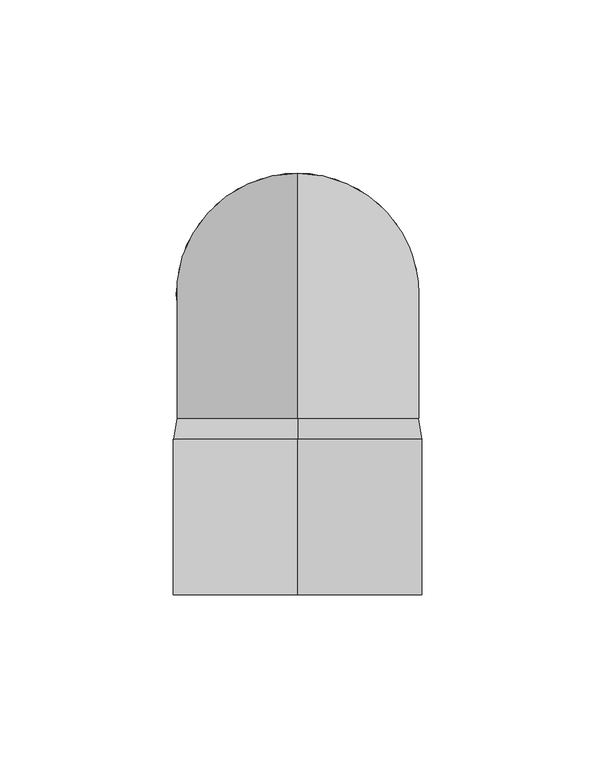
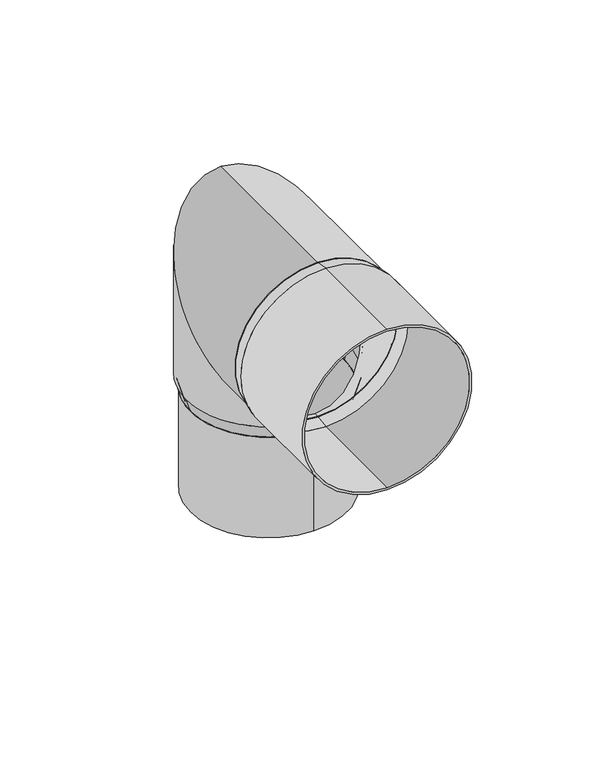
"""IFC4 building model written with IfcOpenShell, lengths in millimetres: proxy geometry, GROVIK_Downpipe_Knee : N70_90°_Up."""

import ifcopenshell
import ifcopenshell.guid

model = None  # the IFC model being written
_history = None  # IfcOwnerHistory: only IFC2X3 demands one
_inside = {}  # id of a spatial element -> (the spatial element, [elements in it])
_under = {}  # id of a project, library or spatial element -> (it, [spatial elements below it])
_declared = {}  # id of a project -> (the project, [libraries it declares])
_typed = {}  # id of a type object -> (the type object, [elements of that type])
_made_of = {}  # id of a material, layer set ... -> (it, [elements and type objects made of it])


def new_model(schema):
    """Start an empty IFC model of exactly this schema.

    Asked for "IFC4X3", IfcOpenShell would pick the latest addendum, in which some entities
    have other attributes; the version numbers below select the first issue.
    IFC2X3 requires an IfcOwnerHistory on every rooted entity: one is made here for all.
    """
    global model, _history
    if schema == "IFC4X3":
        model = ifcopenshell.file(schema_version=(4, 3, 0, 0))
    else:
        model = ifcopenshell.file(schema=schema)
    _inside.clear()
    _under.clear()
    _declared.clear()
    _typed.clear()
    _made_of.clear()
    _history = None
    if model.schema == "IFC2X3":
        org = make("IfcOrganization", Name="unknown")
        user = make(
            "IfcPersonAndOrganization",
            ThePerson=make("IfcPerson", FamilyName="unknown"),
            TheOrganization=org,
        )
        app = make(
            "IfcApplication",
            ApplicationDeveloper=org,
            Version="unknown",
            ApplicationFullName="unknown",
            ApplicationIdentifier="unknown",
        )
        _history = make(
            "IfcOwnerHistory",
            OwningUser=user,
            OwningApplication=app,
            ChangeAction="ADDED",
            CreationDate=0,
        )
    return model


def make(cls, **values):
    """One entity of the class cls with the attributes given. An attribute that is None is left unset."""
    return model.create_entity(
        cls, **{name: value for name, value in values.items() if value is not None}
    )


def rooted(cls, **values):
    """An entity with a GlobalId (a new one), such as an element, a storey or a relation."""
    return make(cls, GlobalId=ifcopenshell.guid.new(), OwnerHistory=_history, **values)


def si_unit(unit_type, name, prefix=None):
    """IfcSIUnit, for example si_unit("LENGTHUNIT", "METRE", prefix="MILLI")."""
    return make("IfcSIUnit", UnitType=unit_type, Prefix=prefix, Name=name)


def assignment(units):
    """IfcUnitAssignment: the units of a project."""
    return None if units is None else make("IfcUnitAssignment", Units=units)


def point(xyz):
    """IfcCartesianPoint."""
    return None if xyz is None else make("IfcCartesianPoint", Coordinates=xyz)


def direction(xyz):
    """IfcDirection."""
    return None if xyz is None else make("IfcDirection", DirectionRatios=xyz)


def frame(location, z_axis=None, x_axis=None):
    """IfcAxis2Placement3D, a coordinate frame: its origin and axes. An axis left out is left unset."""
    return make(
        "IfcAxis2Placement3D",
        Location=point(location),
        Axis=direction(z_axis),
        RefDirection=direction(x_axis),
    )


def frame_2d(location, x_axis=None):
    """IfcAxis2Placement2D, a coordinate frame in the plane: its origin and x axis."""
    return make(
        "IfcAxis2Placement2D", Location=point(location), RefDirection=direction(x_axis)
    )


def origin():
    """The frame at (0, 0, 0) with its axes left unset."""
    return frame((0.0, 0.0, 0.0))


def origin_with_axes():
    """The frame at (0, 0, 0) with the z axis (0, 0, 1) and the x axis (1, 0, 0) written out."""
    return frame((0.0, 0.0, 0.0), z_axis=(0.0, 0.0, 1.0), x_axis=(1.0, 0.0, 0.0))


def origin_2d():
    """The frame at (0, 0) in the plane with its x axis left unset."""
    return frame_2d((0.0, 0.0))


def place(relative_to, where):
    """IfcLocalPlacement: puts the frame where relative to a parent placement (None: the world)."""
    return make(
        "IfcLocalPlacement", PlacementRelTo=relative_to, RelativePlacement=where
    )


def context(
    kind, dimensions, precision=None, world=None, true_north=None, identifier=None
):
    """IfcGeometricRepresentationContext, for example the 3D "Model" context."""
    return make(
        "IfcGeometricRepresentationContext",
        ContextIdentifier=identifier,
        ContextType=kind,
        CoordinateSpaceDimension=dimensions,
        Precision=precision,
        WorldCoordinateSystem=world,
        TrueNorth=true_north,
    )


def project(units=None, contexts=None):
    """IfcProject with its units and contexts."""
    return rooted(
        "IfcProject",
        Name="project",
        RepresentationContexts=contexts,
        UnitsInContext=assignment(units),
    )


def spatial(cls, under=None, at=None, **own):
    """A site, building, storey or space (cls), placed at a placement, below another one or the project."""
    s = rooted(cls, ObjectPlacement=at, **own)
    if under is not None:
        _under.setdefault(under.id(), (under, []))[1].append(s)
    return s


def polyline(points):
    """IfcPolyline through the points."""
    return make("IfcPolyline", Points=[point(p) for p in points])


def circle_curve(where, radius):
    """IfcCircle in the frame where."""
    return make("IfcCircle", Position=where, Radius=radius)


def ellipse_curve(where, semi_axis1, semi_axis2):
    """IfcEllipse in the frame where."""
    return make(
        "IfcEllipse", Position=where, SemiAxis1=semi_axis1, SemiAxis2=semi_axis2
    )


def trimmed(basis, trim1, trim2, sense, master):
    """IfcTrimmedCurve: the piece of a basis curve between two trims."""
    return make(
        "IfcTrimmedCurve",
        BasisCurve=basis,
        Trim1=trim1,
        Trim2=trim2,
        SenseAgreement=sense,
        MasterRepresentation=master,
    )


def segment(curve, same_sense, transition):
    """IfcCompositeCurveSegment."""
    return make(
        "IfcCompositeCurveSegment",
        Transition=transition,
        SameSense=same_sense,
        ParentCurve=curve,
    )


def composite_curve(segments, self_intersect=None):
    """IfcCompositeCurve: segments joined end to end."""
    return make("IfcCompositeCurve", Segments=segments, SelfIntersect=self_intersect)


def outline(outer, holes=None, kind="AREA"):
    """IfcArbitraryClosedProfileDef: a profile drawn as a closed curve; with holes, ...WithVoids."""
    if holes is None:
        return make("IfcArbitraryClosedProfileDef", ProfileType=kind, OuterCurve=outer)
    return make(
        "IfcArbitraryProfileDefWithVoids",
        ProfileType=kind,
        OuterCurve=outer,
        InnerCurves=holes,
    )


def extrude(swept, where, along, depth):
    """IfcExtrudedAreaSolid: the profile swept, set in the frame where, extruded along a direction by depth."""
    return make(
        "IfcExtrudedAreaSolid",
        SweptArea=swept,
        Position=where,
        ExtrudedDirection=direction(along),
        Depth=depth,
    )


def shape(context_of_items, identifier, shape_type, items):
    """IfcShapeRepresentation: the items that make up one representation, for example the "Body"."""
    return make(
        "IfcShapeRepresentation",
        ContextOfItems=context_of_items,
        RepresentationIdentifier=identifier,
        RepresentationType=shape_type,
        Items=items,
    )


def source(mapping_origin, context_of_items, identifier, shape_type, items):
    """IfcRepresentationMap: a shape defined once, which mapped items show again and again."""
    return make(
        "IfcRepresentationMap",
        MappingOrigin=mapping_origin,
        MappedRepresentation=shape(context_of_items, identifier, shape_type, items),
    )


def transform(
    local_origin,
    x_axis=None,
    y_axis=None,
    z_axis=None,
    scale=None,
    scale2=None,
    scale3=None,
    uniform=True,
):
    """IfcCartesianTransformationOperator3D, or its non-uniform kind. x_axis, y_axis, z_axis: its Axis1, 2, 3."""
    if uniform:
        return make(
            "IfcCartesianTransformationOperator3D",
            Axis1=direction(x_axis),
            Axis2=direction(y_axis),
            LocalOrigin=point(local_origin),
            Scale=scale,
            Axis3=direction(z_axis),
        )
    return make(
        "IfcCartesianTransformationOperator3DnonUniform",
        Axis1=direction(x_axis),
        Axis2=direction(y_axis),
        LocalOrigin=point(local_origin),
        Scale=scale,
        Axis3=direction(z_axis),
        Scale2=scale2,
        Scale3=scale3,
    )


def mapped(mapping_source, mapping_target):
    """IfcMappedItem: shows the shape of a source again, moved by a transform."""
    return make(
        "IfcMappedItem", MappingSource=mapping_source, MappingTarget=mapping_target
    )


def made_of(thing, what):
    """Note that an element or type object is made of a material, layer set ...; save() writes the relation."""
    if what is not None:
        _made_of.setdefault(what.id(), (what, []))[1].append(thing)
    return thing


def element(
    cls,
    number,
    at=None,
    inside=None,
    cuts=None,
    type_object=None,
    material=None,
    context=None,
    identifier="Body",
    shape_type=None,
    held_by="IfcProductDefinitionShape",
    body=None,
    shapes=None,
    **own,
):
    """One element of the class cls, such as IfcWall. Its Tag is "e" and its number.

    at: its placement. inside: the storey or other place that contains it. cuts: it is an
    opening in that element (IfcRelVoidsElement). A single representation is given by context,
    identifier, shape_type and body (its items); several are given by shapes. held_by: the class
    of the entity that holds the representations. save() writes the other relations.
    """
    e = rooted(cls, Tag="e%d" % number, ObjectPlacement=at, **own)
    if body is not None:
        shapes = [shape(context, identifier, shape_type, body)]
    if shapes is not None:
        e.Representation = make(held_by, Representations=shapes)
    if inside is not None:
        _inside.setdefault(inside.id(), (inside, []))[1].append(e)
    if cuts is not None:
        rooted(
            "IfcRelVoidsElement", RelatingBuildingElement=cuts, RelatedOpeningElement=e
        )
    if type_object is not None:
        _typed.setdefault(type_object.id(), (type_object, []))[1].append(e)
    return made_of(e, material)


def aggregate(whole, parts):
    """IfcRelAggregates: a whole, such as a stair, and the parts it consists of."""
    return rooted("IfcRelAggregates", RelatingObject=whole, RelatedObjects=parts)


def save(model, path):
    """Write the relations noted so far, then the file.

    IfcRelAggregates (storeys below a building ...), IfcRelContainedInSpatialStructure (elements
    in a storey), IfcRelDefinesByType, IfcRelAssociatesMaterial and IfcRelDeclares: one each for
    every whole, place, type object, material and project.
    """
    for whole, parts in _under.values():
        aggregate(whole, parts)
    for where, things in _inside.values():
        rooted(
            "IfcRelContainedInSpatialStructure",
            RelatedElements=things,
            RelatingStructure=where,
        )
    for kind, things in _typed.values():
        rooted("IfcRelDefinesByType", RelatedObjects=things, RelatingType=kind)
    for what, things in _made_of.values():
        rooted("IfcRelAssociatesMaterial", RelatedObjects=things, RelatingMaterial=what)
    for by, libraries in _declared.values():
        rooted("IfcRelDeclares", RelatingContext=by, RelatedDefinitions=libraries)
    model.write(path)


def plane_surface(at):
    """IfcPlane: the flat surface through the origin of the frame at, square to its z axis."""
    return make("IfcPlane", Position=at)


def cylinder_surface(at, radius):
    """IfcCylindricalSurface: all points at the distance radius from the z axis of the frame at."""
    return make("IfcCylindricalSurface", Position=at, Radius=radius)


def revolved_surface(curve, axis_point, axis_direction):
    """IfcSurfaceOfRevolution: the curve turned about the line through axis_point along axis_direction."""
    return make(
        "IfcSurfaceOfRevolution",
        SweptCurve=make("IfcArbitraryOpenProfileDef", ProfileType="CURVE", Curve=curve),
        AxisPosition=make("IfcAxis1Placement", Location=point(axis_point), Axis=direction(axis_direction)),
    )


def advanced_brep(points, edges, surfaces, faces):
    """IfcAdvancedBrep: a solid bounded by faces that lie on surfaces and meet in shared edges.

    An edge is (start, end): straight between two places in points (the first is 0);
    or (start, end, curve); or (start, end, curve, False) where it runs against its curve.
    A face is (place in surfaces, loops), or (place, loops, False) where it looks against
    its surface's normal. A loop lists edges by number (the first is 1), with a minus sign
    where the edge is run from its end to its start. The first loop is the outer one.
    """
    corners = [point(p) for p in points]
    vertices = [make("IfcVertexPoint", VertexGeometry=c) for c in corners]
    made = []
    for start, end, *more in edges:
        made.append(
            make(
                "IfcEdgeCurve",
                EdgeStart=vertices[start],
                EdgeEnd=vertices[end],
                EdgeGeometry=more[0] if more else make("IfcPolyline", Points=[corners[start], corners[end]]),
                SameSense=more[1] if len(more) > 1 else True,
            )
        )
    hull = []
    for where, loops, *sense in faces:
        bounds = []
        for j, loop in enumerate(loops):
            ring = [make("IfcOrientedEdge", EdgeElement=made[abs(k) - 1], Orientation=k > 0) for k in loop]
            bounds.append(
                make(
                    "IfcFaceOuterBound" if j == 0 else "IfcFaceBound",
                    Bound=make("IfcEdgeLoop", EdgeList=ring),
                    Orientation=True,
                )
            )
        hull.append(make("IfcAdvancedFace", Bounds=bounds, FaceSurface=surfaces[where], SameSense=sense[0] if sense else True))
    return make("IfcAdvancedBrep", Outer=make("IfcClosedShell", CfsFaces=hull))


def generic_models_b11029b1(model_context):
    return source(origin(), model_context, "Body", "SolidModel", [
        extrude(outline(composite_curve([segment(trimmed(circle_curve(origin_2d(), 33.2), [point((0.0, 33.2))], [point((0.0, -33.2))], False, "CARTESIAN"), True, "CONTINUOUS"), segment(trimmed(circle_curve(origin_2d(), 33.2), [point((0.0, -33.2))], [point((0.0, 33.2))], False, "CARTESIAN"), True, "CONTINUOUS")], self_intersect=False), holes=[composite_curve([segment(trimmed(circle_curve(origin_2d(), 32.2), [point((0.0, 32.2))], [point((0.0, -32.2))], True, "CARTESIAN"), True, "CONTINUOUS"), segment(trimmed(circle_curve(origin_2d(), 32.2), [point((0.0, -32.2))], [point((0.0, 32.2))], True, "CARTESIAN"), True, "CONTINUOUS")], self_intersect=False)]), frame((0.0, 0.0, -51.0), z_axis=(0.0, 0.0, 1.0), x_axis=(1.0, 0.0, 0.0)), (0.0, 0.0, 1.0), 45.0),
        advanced_brep(
        [(0.0, 35.0, 0.0), (0.0, -35.0, 0.0), (0.0, 34.0, 0.0), (0.0, -34.0, 0.0), (0.0, 34.0, 69.9), (0.0, -34.0, 1.9), (0.0, 35.0, 70.9), (0.0, -35.0, 0.9), (0.0, -35.9, 70.9), (0.0, -35.9, 0.9), (0.0, -35.9, 69.9), (0.0, -35.9, 1.9)],
        [
            (0, 1, circle_curve(frame((0.0, 0.0, 0.0), z_axis=(0.0, 0.0, -1.0), x_axis=(0.0, -1.0, 0.0)), 35.0)),
            (1, 0, circle_curve(frame((0.0, 0.0, 0.0), z_axis=(0.0, 0.0, -1.0), x_axis=(0.0, -1.0, 0.0)), 35.0)),
            (2, 3, circle_curve(frame((0.0, 0.0, 0.0), z_axis=(0.0, 0.0, 1.0), x_axis=(0.0, -1.0, 0.0)), 34.0)),
            (3, 2, circle_curve(frame((0.0, 0.0, 0.0), z_axis=(0.0, 0.0, 1.0), x_axis=(0.0, -1.0, 0.0)), 34.0)),
            (2, 4),
            (4, 5, ellipse_curve(frame((0.0, 0.0, 35.9), z_axis=(0.0, -0.7071067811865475, 0.7071067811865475), x_axis=(0.0, 0.7071067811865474, 0.7071067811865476)), 48.0832611, 34.0)),
            (5, 3),
            (5, 4, ellipse_curve(frame((0.0, 0.0, 35.9), z_axis=(0.0, -0.7071067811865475, 0.7071067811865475), x_axis=(0.0, 0.7071067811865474, 0.7071067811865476)), 48.0832611, 34.0)),
            (0, 6),
            (6, 7, ellipse_curve(frame((0.0, 0.0, 35.9), z_axis=(0.0, 0.7071067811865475, -0.7071067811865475), x_axis=(0.0, -0.7071067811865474, -0.7071067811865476)), 49.4974747, 35.0)),
            (7, 1),
            (7, 6, ellipse_curve(frame((0.0, 0.0, 35.9), z_axis=(0.0, 0.7071067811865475, -0.7071067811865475), x_axis=(0.0, -0.7071067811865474, -0.7071067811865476)), 49.4974747, 35.0)),
            (8, 9, circle_curve(frame((0.0, -35.9, 35.9), z_axis=(0.0, -1.0, 0.0), x_axis=(0.0, 0.0, -1.0)), 35.0)),
            (9, 8, circle_curve(frame((0.0, -35.9, 35.9), z_axis=(0.0, -1.0, 0.0), x_axis=(0.0, 0.0, -1.0)), 35.0)),
            (10, 11, circle_curve(frame((0.0, -35.9, 35.9), z_axis=(0.0, 1.0, 0.0), x_axis=(0.0, 0.0, -1.0)), 34.0)),
            (11, 10, circle_curve(frame((0.0, -35.9, 35.9), z_axis=(0.0, 1.0, 0.0), x_axis=(0.0, 0.0, -1.0)), 34.0)),
            (4, 10),
            (11, 5),
            (6, 8),
            (9, 7),
        ],
        [
            plane_surface(frame((0.0, 0.0, 0.0), z_axis=(0.0, 0.0, -1.0), x_axis=(1.0, 0.0, 0.0))),
            revolved_surface(polyline([(0.0, -34.0, 69.9), (0.0, -34.0, 0.0)]), (0.0, 0.0, 0.0), (0.0, 0.0, 1.0)),
            cylinder_surface(frame((0.0, 0.0, 0.0), z_axis=(0.0, 0.0, -1.0), x_axis=(0.0, -1.0, 0.0)), 35.0),
            plane_surface(frame((0.0, -35.9, 35.9), z_axis=(0.0, -1.0, 0.0), x_axis=(1.0, 0.0, 0.0))),
            revolved_surface(polyline([(0.0, -35.9, 1.8999999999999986), (0.0, 34.0, 1.8999999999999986)]), (0.0, 0.0, 35.9), (0.0, -1.0, 0.0)),
            cylinder_surface(frame((0.0, 0.0, 35.9), z_axis=(0.0, 1.0, 0.0), x_axis=(0.0, 0.0, -1.0)), 35.0),
        ],
        [
            (0, [[1, 2], [3, 4]]),
            (1, [[-3, 5, 6, 7]]),
            (1, [[-4, -7, 8, -5]]),
            (2, [[-1, 9, 10, 11]]),
            (2, [[-2, -11, 12, -9]]),
            (3, [[13, 14], [15, 16]]),
            (4, [[-6, 17, -16, 18]]),
            (4, [[-8, -18, -15, -17]]),
            (5, [[-10, 19, -14, 20]]),
            (5, [[-12, -20, -13, -19]]),
        ],
    ),
        advanced_brep(
        [(-33.2, 0.0, -6.0), (33.2, 0.0, -6.0), (-32.2, 0.0, -6.0), (32.2, 0.0, -6.0), (-35.0, 0.0, 0.0), (35.0, 0.0, 0.0), (34.0, 0.0, 0.0), (-34.0, 0.0, 0.0)],
        [
            (0, 1, circle_curve(frame((0.0, 0.0, -6.0), z_axis=(0.0, 0.0, -1.0), x_axis=(-1.0, 0.0, 0.0)), 33.2)),
            (1, 0, circle_curve(frame((0.0, 0.0, -6.0), z_axis=(0.0, 0.0, -1.0), x_axis=(1.0, 0.0, 0.0)), 33.2)),
            (2, 3, circle_curve(frame((0.0, 0.0, -6.0), z_axis=(0.0, 0.0, 1.0), x_axis=(1.0, 0.0, 0.0)), 32.2)),
            (3, 2, circle_curve(frame((0.0, 0.0, -6.0), z_axis=(0.0, 0.0, 1.0), x_axis=(-1.0, 0.0, 0.0)), 32.2)),
            (4, 5, circle_curve(origin_with_axes(), 35.0)),
            (5, 4, circle_curve(frame((0.0, 0.0, 0.0), z_axis=(0.0, 0.0, 1.0), x_axis=(-1.0, 0.0, 0.0)), 35.0)),
            (6, 7, circle_curve(frame((0.0, 0.0, 0.0), z_axis=(0.0, 0.0, -1.0), x_axis=(1.0, 0.0, 0.0)), 34.0)),
            (7, 6, circle_curve(frame((0.0, 0.0, 0.0), z_axis=(0.0, 0.0, -1.0), x_axis=(-1.0, 0.0, 0.0)), 34.0)),
            (1, 5),
            (4, 0),
            (6, 3),
            (2, 7),
        ],
        [
            plane_surface(frame((0.0, 0.0, -6.0), z_axis=(0.0, 0.0, -1.0), x_axis=(0.0, 1.0, 0.0))),
            plane_surface(frame((0.0, 0.0, 0.0), z_axis=(0.0, 0.0, 1.0), x_axis=(0.0, 1.0, 0.0))),
            revolved_surface(polyline([(33.20000000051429, 0.0, -6.0), (35.0, 0.0, 0.0)]), (0.0, 0.0, -116.6666667), (0.0, 0.0, 1.0)),
            revolved_surface(polyline([(-33.20000000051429, 0.0, -6.0), (-35.0, 0.0, 0.0)]), (0.0, 0.0, -116.6666667), (0.0, 0.0, 1.0)),
            revolved_surface(polyline([(34.0, 0.0, 0.0), (32.19999999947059, 0.0, -6.0)]), (0.0, 0.0, -113.3333333), (0.0, 0.0, 1.0)),
        ],
        [
            (0, [[1, 2], [3, 4]]),
            (1, [[5, 6], [7, 8]]),
            (2, [[-2, 9, -5, 10]]),
            (3, [[-1, -10, -6, -9]]),
            (4, [[11, -3, 12, -7]]),
            (4, [[-11, -8, -12, -4]]),
        ],
    ),
        extrude(outline(composite_curve([segment(trimmed(circle_curve(frame_2d((35.9, 0.0)), 36.0), [point((-0.1, 0.0))], [point((71.9, 0.0))], False, "CARTESIAN"), True, "CONTINUOUS"), segment(trimmed(circle_curve(frame_2d((35.9, 0.0)), 36.0), [point((71.9, 0.0))], [point((-0.1, 0.0))], False, "CARTESIAN"), True, "CONTINUOUS")], self_intersect=False), holes=[composite_curve([segment(trimmed(circle_curve(frame_2d((35.9, 0.0)), 35.0), [point((0.9, 0.0))], [point((70.9, 0.0))], True, "CARTESIAN"), True, "CONTINUOUS"), segment(trimmed(circle_curve(frame_2d((35.9, 0.0)), 35.0), [point((70.9, 0.0))], [point((0.9, 0.0))], True, "CARTESIAN"), True, "CONTINUOUS")], self_intersect=False)]), frame((0.0, -86.9, 0.0), z_axis=(0.0, 1.0, 0.0), x_axis=(0.0, 0.0, 1.0)), (0.0, 0.0, 1.0), 45.0),
        advanced_brep(
        [(0.0, -35.9, 0.9), (0.0, -35.9, 70.9), (0.0, -35.9, 69.9), (0.0, -35.9, 1.9), (0.0, -41.9, -0.1), (0.0, -41.9, 71.9), (0.0, -41.9, 0.9), (0.0, -41.9, 70.9)],
        [
            (0, 1, circle_curve(frame((0.0, -35.9, 35.9), z_axis=(0.0, 1.0, 0.0), x_axis=(0.0, 0.0, -1.0)), 35.0)),
            (1, 0, circle_curve(frame((0.0, -35.9, 35.9), z_axis=(0.0, 1.0, 0.0), x_axis=(0.0, 0.0, 1.0)), 35.0)),
            (2, 3, circle_curve(frame((0.0, -35.9, 35.9), z_axis=(0.0, -1.0, 0.0), x_axis=(0.0, 0.0, -1.0)), 34.0)),
            (3, 2, circle_curve(frame((0.0, -35.9, 35.9), z_axis=(0.0, -1.0, 0.0), x_axis=(0.0, 0.0, 1.0)), 34.0)),
            (4, 5, circle_curve(frame((0.0, -41.9, 35.9), z_axis=(0.0, -1.0, 0.0), x_axis=(0.0, 0.0, 1.0)), 36.0)),
            (5, 4, circle_curve(frame((0.0, -41.9, 35.9), z_axis=(0.0, -1.0, 0.0), x_axis=(0.0, 0.0, -1.0)), 36.0)),
            (6, 7, circle_curve(frame((0.0, -41.9, 35.9), z_axis=(0.0, 1.0, 0.0), x_axis=(0.0, 0.0, -1.0)), 35.0)),
            (7, 6, circle_curve(frame((0.0, -41.9, 35.9), z_axis=(0.0, 1.0, 0.0), x_axis=(0.0, 0.0, 1.0)), 35.0)),
            (0, 4),
            (5, 1),
            (6, 3),
            (2, 7),
        ],
        [
            plane_surface(frame((0.0, -35.9, 35.9), z_axis=(0.0, 1.0, 0.0), x_axis=(-1.0, 0.0, 0.0))),
            plane_surface(frame((0.0, -41.9, 35.9), z_axis=(0.0, -1.0, 0.0), x_axis=(-1.0, 0.0, 0.0))),
            revolved_surface(polyline([(0.0, -35.900000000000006, 0.8999999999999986), (0.0, -41.900000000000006, -0.10000000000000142)]), (0.0, 174.1, 35.9), (0.0, -1.0, 0.0)),
            revolved_surface(polyline([(0.0, -35.900000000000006, 70.9), (0.0, -41.900000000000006, 71.9)]), (0.0, 174.1, 35.9), (0.0, -1.0, 0.0)),
            revolved_surface(polyline([(0.0, -41.900000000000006, 0.8999999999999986), (0.0, -35.900000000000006, 1.8999999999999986)]), (0.0, 168.1, 35.9), (0.0, -1.0, 0.0)),
        ],
        [
            (0, [[1, 2], [3, 4]]),
            (1, [[5, 6], [7, 8]]),
            (2, [[-1, 9, -6, 10]]),
            (3, [[-2, -10, -5, -9]]),
            (4, [[11, -3, 12, -7]]),
            (4, [[-11, -8, -12, -4]]),
        ],
    ),
    ])


if __name__ == "__main__":
    model = new_model("IFC4")
    model_context = context("Model", 3, world=origin())
    ifc_project = project(units=[si_unit("LENGTHUNIT", "METRE", prefix="MILLI")], contexts=[model_context])
    site = spatial("IfcSite", under=ifc_project)
    building = spatial("IfcBuilding", under=site)
    placement = place(None, origin())
    generic_models_shape = generic_models_b11029b1(model_context)
    element("IfcBuildingElementProxy", 1, Name="GROVIK_Downpipe_Knee : N70_90°_Up", ObjectType="GROVIK_Downpipe_Knee : N70_90°_Up", at=placement, inside=building, context=model_context, shape_type="MappedRepresentation", body=[
        mapped(generic_models_shape, transform((0.0, 0.0, 0.0), x_axis=(1.0, 0.0, 0.0), y_axis=(0.0, 1.0, 0.0), z_axis=(0.0, 0.0, 1.0))),
    ])
    save(model, "model.ifc")
